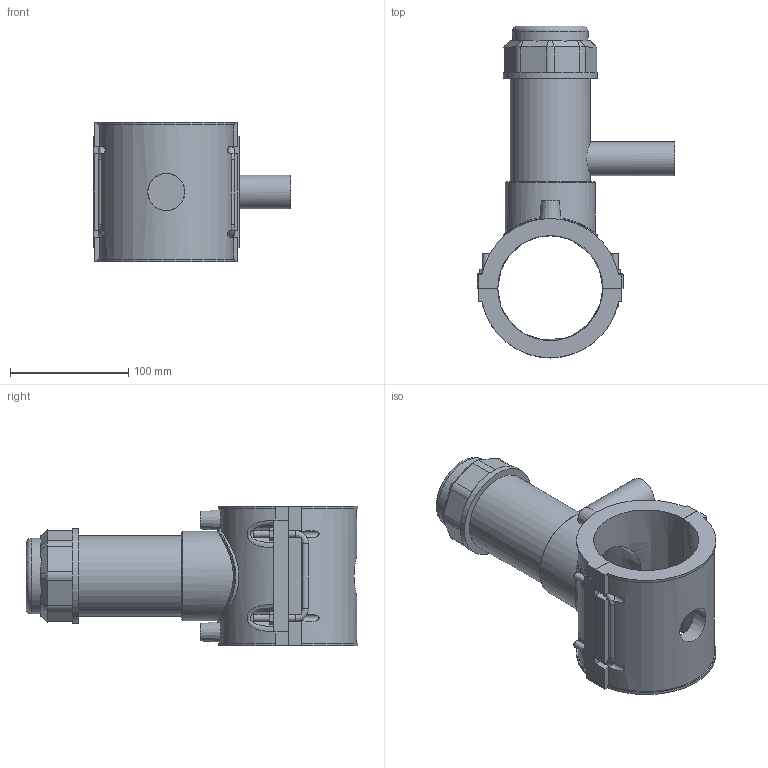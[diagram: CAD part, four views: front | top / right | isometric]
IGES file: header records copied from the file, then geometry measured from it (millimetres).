
Global section: file name: 5963BU03030010.ipt; native system: Autodesk Inventor 2019; preprocessor: unknown; author: KIM; date: 20210830.101454; units: millimetre
Bounding box: 166.35 x 280.2 x 118.11 mm (x, y, z)
Volume: 857428 mm3; surface area: 176497.6 mm2
Topology: 1 solids, 1 shells, 210 faces, 552 edges, 361 vertices
Faces by surface type: plane 128, cylinder 37, revolution 24, cone 15, bspline 6
Full cylindrical faces by diameter (mm): 4 x2, 6 x8, 28.45 x1, 63.864 x1, 67.856 x1, 75.838 x1, 79.83 x1
